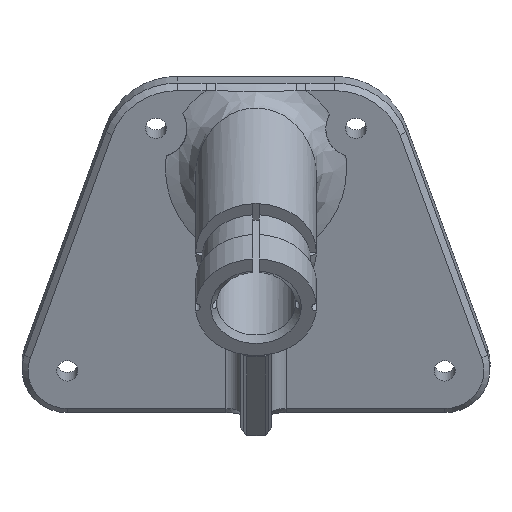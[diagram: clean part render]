
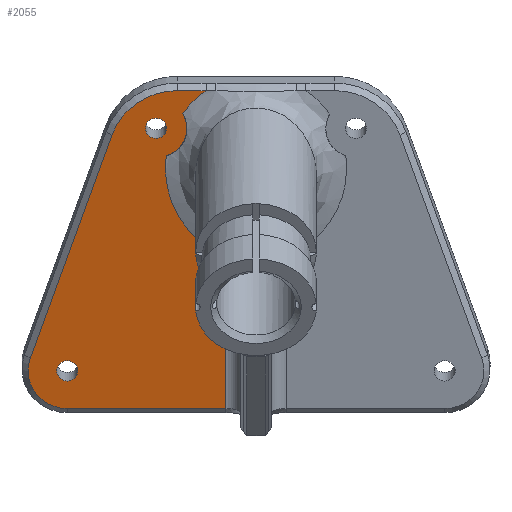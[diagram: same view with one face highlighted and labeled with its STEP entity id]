
A CAD part, top view. The second image highlights one B-rep face of the part: STEP entity #2055.
In plain terms, the highlighted planar face has unit normal (0, -0.283, 0.959).
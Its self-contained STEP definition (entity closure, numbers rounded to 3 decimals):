
#17=FACE_BOUND('',#631,.T.);
#18=FACE_BOUND('',#632,.T.);
#34=ELLIPSE('',#2210,32.036,30.);
#35=ELLIPSE('',#2211,32.036,30.);
#169=LINE('',#3630,#326);
#173=LINE('',#3642,#330);
#179=LINE('',#3657,#336);
#181=LINE('',#3912,#338);
#326=VECTOR('',#2531,10.);
#330=VECTOR('',#2543,10.);
#336=VECTOR('',#2557,10.);
#338=VECTOR('',#2583,10.);
#427=PLANE('',#2213);
#511=FACE_OUTER_BOUND('',#630,.T.);
#630=EDGE_LOOP('',(#1645,#1646,#1647,#1648,#1649,#1650,#1651,#1652,#1653));
#631=EDGE_LOOP('',(#1654));
#632=EDGE_LOOP('',(#1655));
#773=CIRCLE('',#2196,13.);
#775=CIRCLE('',#2200,23.);
#780=CIRCLE('',#2214,10.);
#781=CIRCLE('',#2215,3.5);
#782=CIRCLE('',#2216,3.5);
#947=VERTEX_POINT('',#3623);
#949=VERTEX_POINT('',#3629);
#951=VERTEX_POINT('',#3635);
#953=VERTEX_POINT('',#3641);
#955=VERTEX_POINT('',#3647);
#957=VERTEX_POINT('',#3653);
#964=VERTEX_POINT('',#3839);
#965=VERTEX_POINT('',#3841);
#966=VERTEX_POINT('',#3868);
#969=VERTEX_POINT('',#3914);
#970=VERTEX_POINT('',#3916);
#1189=EDGE_CURVE('',#947,#949,#169,.T.);
#1194=EDGE_CURVE('',#949,#951,#773,.T.);
#1195=EDGE_CURVE('',#951,#953,#173,.T.);
#1200=EDGE_CURVE('',#953,#955,#775,.T.);
#1203=EDGE_CURVE('',#955,#957,#179,.T.);
#1215=EDGE_CURVE('',#957,#964,#34,.T.);
#1217=EDGE_CURVE('',#965,#966,#35,.T.);
#1222=EDGE_CURVE('',#966,#947,#181,.T.);
#1223=EDGE_CURVE('',#965,#964,#780,.T.);
#1224=EDGE_CURVE('',#969,#969,#781,.T.);
#1225=EDGE_CURVE('',#970,#970,#782,.T.);
#1645=ORIENTED_EDGE('',*,*,#1203,.F.);
#1646=ORIENTED_EDGE('',*,*,#1200,.F.);
#1647=ORIENTED_EDGE('',*,*,#1195,.F.);
#1648=ORIENTED_EDGE('',*,*,#1194,.F.);
#1649=ORIENTED_EDGE('',*,*,#1189,.F.);
#1650=ORIENTED_EDGE('',*,*,#1222,.F.);
#1651=ORIENTED_EDGE('',*,*,#1217,.F.);
#1652=ORIENTED_EDGE('',*,*,#1223,.T.);
#1653=ORIENTED_EDGE('',*,*,#1215,.F.);
#1654=ORIENTED_EDGE('',*,*,#1224,.T.);
#1655=ORIENTED_EDGE('',*,*,#1225,.T.);
#2055=ADVANCED_FACE('',(#511,#17,#18),#427,.F.);
#2196=AXIS2_PLACEMENT_3D('',#3639,#2539,#2540);
#2200=AXIS2_PLACEMENT_3D('',#3651,#2551,#2552);
#2210=AXIS2_PLACEMENT_3D('',#3840,#2575,#2576);
#2211=AXIS2_PLACEMENT_3D('',#3869,#2577,#2578);
#2213=AXIS2_PLACEMENT_3D('',#3911,#2581,#2582);
#2214=AXIS2_PLACEMENT_3D('',#3913,#2584,#2585);
#2215=AXIS2_PLACEMENT_3D('',#3915,#2586,#2587);
#2216=AXIS2_PLACEMENT_3D('',#3917,#2588,#2589);
#2531=DIRECTION('',(-1.,0.,0.));
#2539=DIRECTION('center_axis',(0.,0.283,-0.959));
#2540=DIRECTION('ref_axis',(0.,-0.959,-0.283));
#2543=DIRECTION('',(0.331,0.905,0.267));
#2551=DIRECTION('center_axis',(0.,0.283,-0.959));
#2552=DIRECTION('ref_axis',(-0.944,0.318,0.094));
#2557=DIRECTION('',(1.,0.,0.));
#2575=DIRECTION('center_axis',(0.,-0.283,
0.959));
#2576=DIRECTION('ref_axis',(0.,0.959,0.283));
#2577=DIRECTION('center_axis',(0.,-0.283,
0.959));
#2578=DIRECTION('ref_axis',(0.,0.959,0.283));
#2581=DIRECTION('center_axis',(0.,0.283,-0.959));
#2582=DIRECTION('ref_axis',(0.,-0.959,-0.283));
#2583=DIRECTION('',(0.,-0.959,-0.283));
#2584=DIRECTION('center_axis',(0.,-0.283,
0.959));
#2585=DIRECTION('ref_axis',(1.,0.,0.));
#2586=DIRECTION('center_axis',(0.,0.283,-0.959));
#2587=DIRECTION('ref_axis',(0.,-0.959,-0.283));
#2588=DIRECTION('center_axis',(0.,0.283,-0.959));
#2589=DIRECTION('ref_axis',(0.,-0.959,-0.283));
#3623=CARTESIAN_POINT('',(-75.04,-171.662,28.212));
#3629=CARTESIAN_POINT('',(-127.491,-171.662,28.212));
#3630=CARTESIAN_POINT('',(-33.814,-171.662,28.212));
#3635=CARTESIAN_POINT('',(-139.757,-155.067,33.116));
#3639=CARTESIAN_POINT('Origin',(-127.491,-159.195,31.896));
#3641=CARTESIAN_POINT('',(-112.746,-81.244,54.934));
#3642=CARTESIAN_POINT('',(-129.799,-127.851,41.159));
#3647=CARTESIAN_POINT('',(-91.043,-66.49,59.294));
#3651=CARTESIAN_POINT('Origin',(-91.043,-88.547,52.775));
#3653=CARTESIAN_POINT('',(-81.553,-66.49,59.294));
#3657=CARTESIAN_POINT('',(-78.041,-66.49,59.294));
#3839=CARTESIAN_POINT('',(-89.303,-74.07,57.054));
#3840=CARTESIAN_POINT('Origin',(-65.04,-92.139,51.714));
#3841=CARTESIAN_POINT('',(-94.774,-88.064,52.918));
#3868=CARTESIAN_POINT('',(-75.04,-121.104,43.153));
#3869=CARTESIAN_POINT('Origin',(-65.04,-92.139,51.714));
#3911=CARTESIAN_POINT('Origin',(-65.04,-119.076,43.753));
#3912=CARTESIAN_POINT('',(-75.04,-113.727,45.334));
#3913=CARTESIAN_POINT('Origin',(-97.907,-78.957,55.61));
#3914=CARTESIAN_POINT('',(-127.491,-155.839,32.888));
#3915=CARTESIAN_POINT('Origin',(-127.491,-159.195,31.896));
#3916=CARTESIAN_POINT('',(-98.132,-75.6,56.602));
#3917=CARTESIAN_POINT('Origin',(-98.132,-78.957,55.61));
